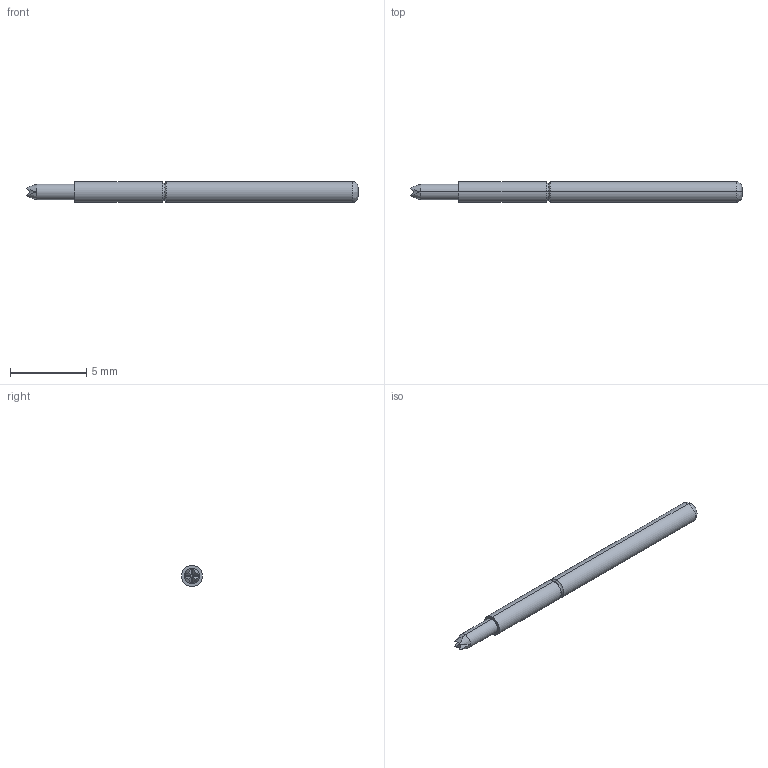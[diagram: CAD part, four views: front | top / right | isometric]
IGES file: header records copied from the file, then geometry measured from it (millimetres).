
Start section: SolidWorks IGES file using analytic representation for surfaces
Global section: file name: O:\PYLON\IGES FILES\P3158\P3158G-2Q1S REC'D.IGS; native system: SolidWorks 2015; preprocessor: SolidWorks 2015; author: kgolden; date: 171020.071002; units: inch
Bounding box: 21.74 x 1.37 x 1.37 mm (x, y, z)
Surface area: 97.1 mm2 (no closed solid volume)
Topology: 0 solids, 0 shells, 30 faces, 182 edges, 182 vertices
Faces by surface type: bspline 20, revolution 10
